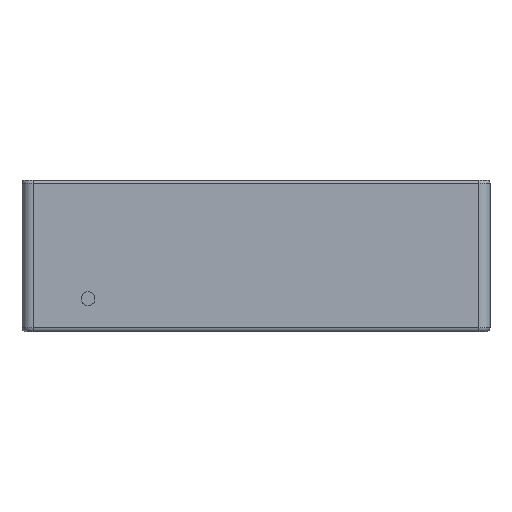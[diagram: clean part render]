
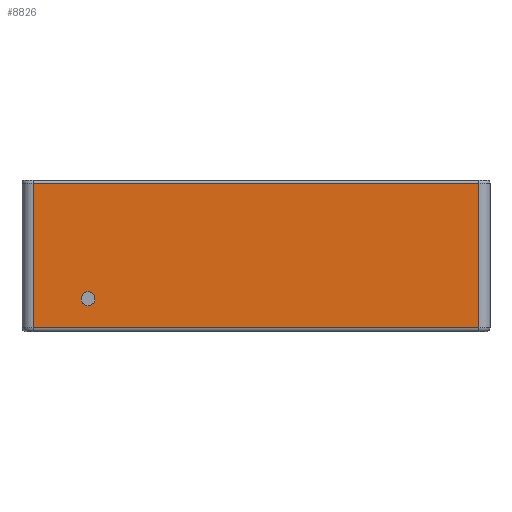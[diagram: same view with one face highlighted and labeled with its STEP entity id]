
A CAD part, front view. The second image highlights one B-rep face of the part: STEP entity #8826.
In plain terms, the highlighted planar face has unit normal (0, -1, 0).
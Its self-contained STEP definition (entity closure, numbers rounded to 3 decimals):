
#405 = CARTESIAN_POINT ( 'NONE',  ( -47.118, -40.742, 98.75 ) ) ;
#510 = VECTOR ( 'NONE', #10523, 1000. ) ;
#519 = DIRECTION ( 'NONE',  ( 0., 0., -1. ) ) ;
#665 = DIRECTION ( 'NONE',  ( 0., 1., 0. ) ) ;
#1156 = EDGE_LOOP ( 'NONE', ( #6275, #9085 ) ) ;
#1178 = FACE_OUTER_BOUND ( 'NONE', #11601, .T. ) ;
#1248 = EDGE_CURVE ( 'NONE', #6506, #10311, #4447, .T. ) ;
#1411 = DIRECTION ( 'NONE',  ( 0., -1., 0. ) ) ;
#1586 = DIRECTION ( 'NONE',  ( 0., 0., 1. ) ) ;
#1620 = CARTESIAN_POINT ( 'NONE',  ( 33.882, -40.742, 98.25 ) ) ;
#1907 = CARTESIAN_POINT ( 'NONE',  ( 33.882, -40.742, 98.75 ) ) ;
#1914 = CARTESIAN_POINT ( 'NONE',  ( -37.118, -40.742, 78.5 ) ) ;
#2120 = ORIENTED_EDGE ( 'NONE', *, *, #5271, .T. ) ;
#2220 = CARTESIAN_POINT ( 'NONE',  ( -37.118, -40.742, 77.25 ) ) ;
#2426 = EDGE_CURVE ( 'NONE', #7330, #2940, #4684, .T. ) ;
#2940 = VERTEX_POINT ( 'NONE', #5286 ) ;
#3256 = DIRECTION ( 'NONE',  ( 0., 0., -1. ) ) ;
#3266 = LINE ( 'NONE', #405, #3415 ) ;
#3415 = VECTOR ( 'NONE', #519, 1000. ) ;
#3536 = PLANE ( 'NONE',  #4888 ) ;
#3769 = CARTESIAN_POINT ( 'NONE',  ( -47.118, -40.742, 98.25 ) ) ;
#4447 = LINE ( 'NONE', #3769, #7752 ) ;
#4684 = CIRCLE ( 'NONE', #9430, 1.25 ) ;
#4861 = LINE ( 'NONE', #1907, #8028 ) ;
#4888 = AXIS2_PLACEMENT_3D ( 'NONE', #9043, #665, #1586 ) ;
#5271 = EDGE_CURVE ( 'NONE', #9364, #6629, #7108, .T. ) ;
#5286 = CARTESIAN_POINT ( 'NONE',  ( -37.118, -40.742, 76. ) ) ;
#5300 = CIRCLE ( 'NONE', #11251, 1.25 ) ;
#5628 = DIRECTION ( 'NONE',  ( -1., 0., 0. ) ) ;
#5717 = DIRECTION ( 'NONE',  ( 0., -1., 0. ) ) ;
#6275 = ORIENTED_EDGE ( 'NONE', *, *, #9499, .F. ) ;
#6506 = VERTEX_POINT ( 'NONE', #1620 ) ;
#6629 = VERTEX_POINT ( 'NONE', #10828 ) ;
#6747 = DIRECTION ( 'NONE',  ( 0., 0., -1. ) ) ;
#7108 = LINE ( 'NONE', #10648, #510 ) ;
#7330 = VERTEX_POINT ( 'NONE', #1914 ) ;
#7339 = FACE_BOUND ( 'NONE', #1156, .T. ) ;
#7752 = VECTOR ( 'NONE', #5628, 1000. ) ;
#8028 = VECTOR ( 'NONE', #8044, 1000. ) ;
#8044 = DIRECTION ( 'NONE',  ( 0., 0., 1. ) ) ;
#8068 = EDGE_CURVE ( 'NONE', #10311, #9364, #3266, .T. ) ;
#8158 = ORIENTED_EDGE ( 'NONE', *, *, #9394, .T. ) ;
#8222 = ORIENTED_EDGE ( 'NONE', *, *, #1248, .T. ) ;
#8826 = ADVANCED_FACE ( 'NONE', ( #7339, #1178 ), #3536, .F. ) ;
#9043 = CARTESIAN_POINT ( 'NONE',  ( -49.118, -40.742, 98.75 ) ) ;
#9085 = ORIENTED_EDGE ( 'NONE', *, *, #2426, .F. ) ;
#9364 = VERTEX_POINT ( 'NONE', #10729 ) ;
#9394 = EDGE_CURVE ( 'NONE', #6629, #6506, #4861, .T. ) ;
#9430 = AXIS2_PLACEMENT_3D ( 'NONE', #2220, #1411, #3256 ) ;
#9499 = EDGE_CURVE ( 'NONE', #2940, #7330, #5300, .T. ) ;
#9721 = ORIENTED_EDGE ( 'NONE', *, *, #8068, .T. ) ;
#10156 = CARTESIAN_POINT ( 'NONE',  ( -47.118, -40.742, 98.25 ) ) ;
#10311 = VERTEX_POINT ( 'NONE', #10156 ) ;
#10523 = DIRECTION ( 'NONE',  ( 1., 0., 0. ) ) ;
#10648 = CARTESIAN_POINT ( 'NONE',  ( -49.118, -40.742, 72. ) ) ;
#10729 = CARTESIAN_POINT ( 'NONE',  ( -47.118, -40.742, 72. ) ) ;
#10828 = CARTESIAN_POINT ( 'NONE',  ( 33.882, -40.742, 72. ) ) ;
#11197 = CARTESIAN_POINT ( 'NONE',  ( -37.118, -40.742, 77.25 ) ) ;
#11251 = AXIS2_PLACEMENT_3D ( 'NONE', #11197, #5717, #6747 ) ;
#11601 = EDGE_LOOP ( 'NONE', ( #8158, #8222, #9721, #2120 ) ) ;
